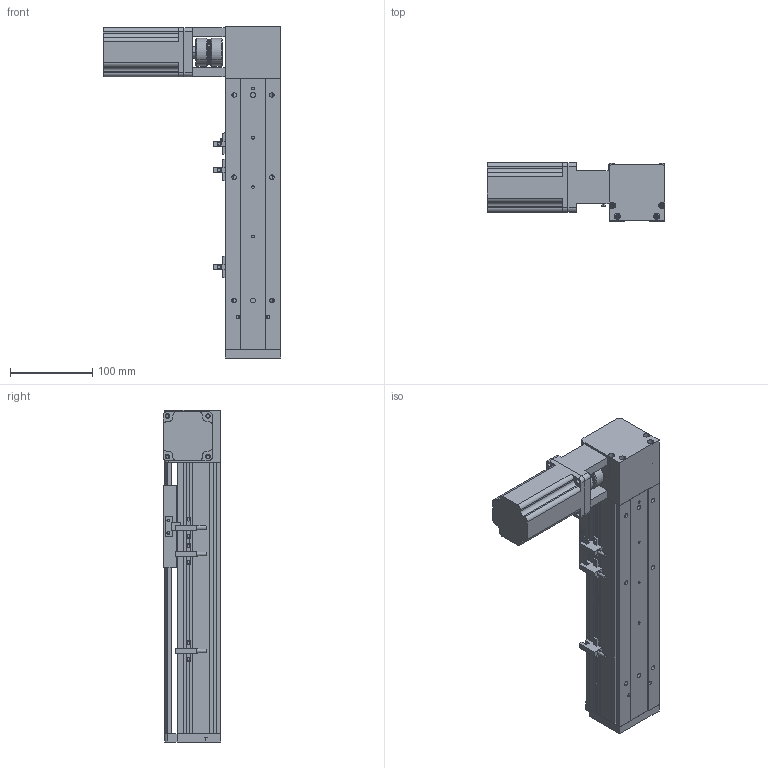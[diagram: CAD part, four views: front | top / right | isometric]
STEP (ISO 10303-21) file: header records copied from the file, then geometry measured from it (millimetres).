
FILE_DESCRIPTION (( 'STEP AP203' ), '1' );
FILE_NAME ('ML68-S150-BL.STEP', '2016-06-01T02:43:05', ( '微软用户' ), ( '微软中国' ), 'SwSTEP 2.0', 'SolidWorks 2014', '' );
FILE_SCHEMA (( 'CONFIG_CONTROL_DESIGN' ));
Length unit declared in the file: millimetre
Products named in the file (11): 換覜ん; MS68-TS0204鎮湛嘐隅釱_蕼偞; ML68傷啣; ML68-S150-BL; ML68雄赽釱; 60換覜結え; ML68-菁釱^ML68-S150-BL; 三协电机MH201N2_預設; 联轴器（CS34X32-8X14）_預設; ML68-奻裔^ML68-S150-BL; ML68-BL傷啣
Assembly tree (12 placements, depth 2):
  ML68-S150-BL
    ML68-BL傷啣
    60換覜結え
    ML68-菁釱^ML68-S150-BL
    ML68傷啣
    換覜ん  x3
    三协电机MH201N2_預設
    联轴器（CS34X32-8X14）_預設
    MS68-TS0204鎮湛嘐隅釱_蕼偞
    ML68-奻裔^ML68-S150-BL
    ML68雄赽釱
Bounding box: 216.5 x 70.5 x 404 mm (x, y, z)
Volume: 1139161.3 mm3; surface area: 335203.5 mm2
Topology: 13 solids, 13 shells, 785 faces, 2125 edges, 1345 vertices
Faces by surface type: cylinder 355, plane 328, cone 96, bspline 6
Entity records: 24432 total; most frequent: CARTESIAN_POINT 4570, DIRECTION 4035, ORIENTED_EDGE 3774, EDGE_CURVE 1887, AXIS2_PLACEMENT_3D 1468, VERTEX_POINT 1233, VECTOR 1099, LINE 1099
